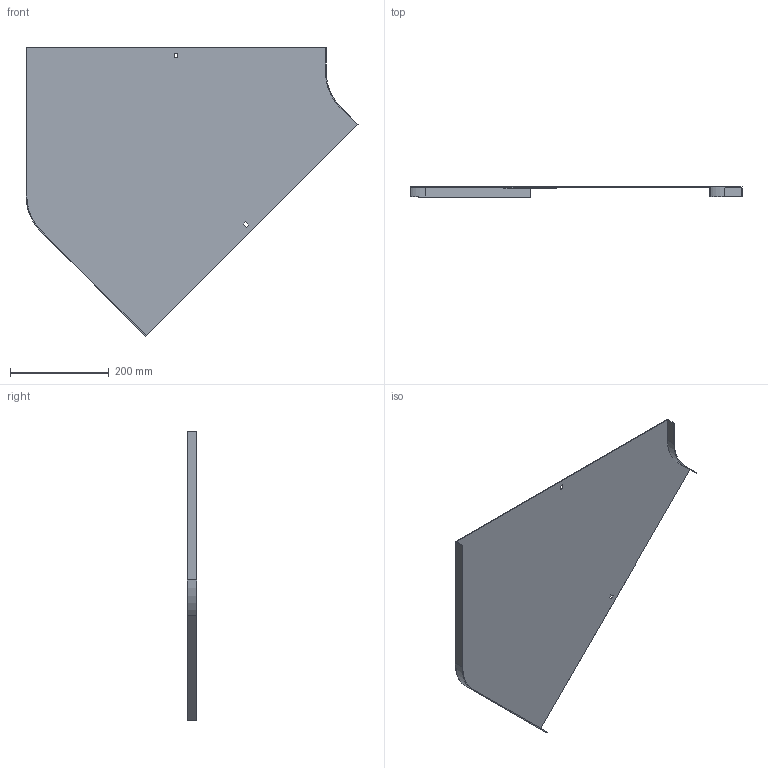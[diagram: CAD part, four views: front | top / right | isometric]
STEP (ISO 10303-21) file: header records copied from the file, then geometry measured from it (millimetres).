
FILE_DESCRIPTION (( 'STEP AP214' ), '1' );
FILE_NAME ('11N1R600.step', '2025-02-21T09:21:17', ( '' ), ( '' ), 'SwSTEP 2.0', 'SolidWorks 2023', '' );
FILE_SCHEMA (( 'AUTOMOTIVE_DESIGN' ));
Length unit declared in the file: millimetre
Products named in the file (1): 11N1R600
Bounding box: 671.21 x 20 x 584.22 mm (x, y, z)
Volume: 417871.1 mm3; surface area: 560472.6 mm2
Topology: 1 solids, 1 shells, 26 faces, 72 edges, 48 vertices
Faces by surface type: plane 22, cylinder 4
Entity records: 855 total; most frequent: CARTESIAN_POINT 147, ORIENTED_EDGE 144, DIRECTION 134, EDGE_CURVE 72, LINE 64, VECTOR 64, VERTEX_POINT 48, AXIS2_PLACEMENT_3D 35
